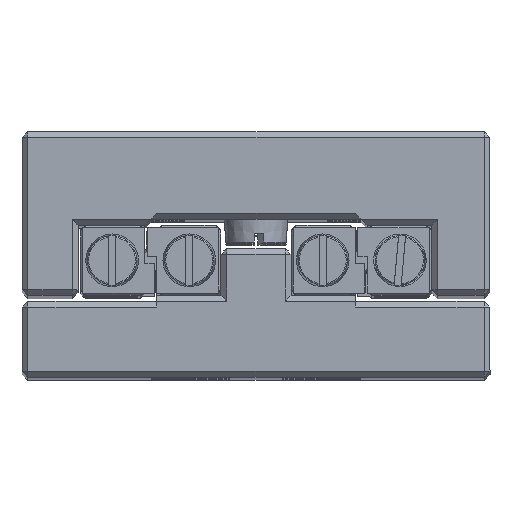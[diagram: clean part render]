
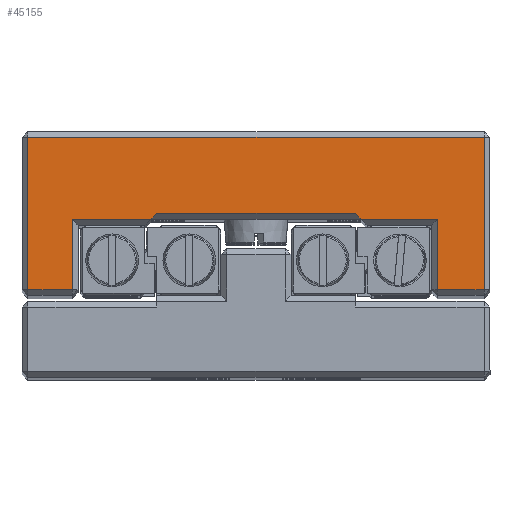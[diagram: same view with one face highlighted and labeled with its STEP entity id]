
A CAD part, top view. The second image highlights one B-rep face of the part: STEP entity #45155.
In plain terms, the highlighted planar face has unit normal (0, 0, 1).
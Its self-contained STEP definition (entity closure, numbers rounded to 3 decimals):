
#2844=PLANE('',#49012);
#5126=FACE_OUTER_BOUND('',#7872,.T.);
#7872=EDGE_LOOP('',(#37960,#37961,#37962,#37963,#37964,#37965,#37966,#37967,
#37968,#37969,#37970,#37971));
#11533=LINE('',#74005,#15374);
#11549=LINE('',#74031,#15390);
#11560=LINE('',#74048,#15401);
#11563=LINE('',#74053,#15404);
#11567=LINE('',#74062,#15408);
#11570=LINE('',#74071,#15411);
#11571=LINE('',#74077,#15412);
#11575=LINE('',#74087,#15416);
#11585=LINE('',#74111,#15426);
#11587=LINE('',#74115,#15428);
#11588=LINE('',#74116,#15429);
#11589=LINE('',#74117,#15430);
#15374=VECTOR('',#58974,10.);
#15390=VECTOR('',#59000,10.);
#15401=VECTOR('',#59019,10.);
#15404=VECTOR('',#59024,10.);
#15408=VECTOR('',#59036,10.);
#15411=VECTOR('',#59049,10.);
#15412=VECTOR('',#59058,10.);
#15416=VECTOR('',#59068,10.);
#15426=VECTOR('',#59088,10.);
#15428=VECTOR('',#59092,10.);
#15429=VECTOR('',#59093,10.);
#15430=VECTOR('',#59094,10.);
#21097=VERTEX_POINT('',#74002);
#21098=VERTEX_POINT('',#74004);
#21103=VERTEX_POINT('',#74029);
#21105=VERTEX_POINT('',#74046);
#21106=VERTEX_POINT('',#74051);
#21107=VERTEX_POINT('',#74060);
#21108=VERTEX_POINT('',#74069);
#21109=VERTEX_POINT('',#74076);
#21111=VERTEX_POINT('',#74084);
#21112=VERTEX_POINT('',#74086);
#21121=VERTEX_POINT('',#74109);
#21122=VERTEX_POINT('',#74114);
#26899=EDGE_CURVE('',#21097,#21098,#11533,.T.);
#26915=EDGE_CURVE('',#21103,#21097,#11549,.T.);
#26926=EDGE_CURVE('',#21105,#21103,#11560,.T.);
#26929=EDGE_CURVE('',#21106,#21105,#11563,.T.);
#26933=EDGE_CURVE('',#21107,#21106,#11567,.T.);
#26936=EDGE_CURVE('',#21108,#21107,#11570,.T.);
#26937=EDGE_CURVE('',#21109,#21108,#11571,.T.);
#26941=EDGE_CURVE('',#21111,#21112,#11575,.T.);
#26953=EDGE_CURVE('',#21121,#21109,#11585,.T.);
#26955=EDGE_CURVE('',#21098,#21122,#11587,.T.);
#26956=EDGE_CURVE('',#21112,#21121,#11588,.T.);
#26957=EDGE_CURVE('',#21122,#21111,#11589,.T.);
#37960=ORIENTED_EDGE('',*,*,#26955,.F.);
#37961=ORIENTED_EDGE('',*,*,#26899,.F.);
#37962=ORIENTED_EDGE('',*,*,#26915,.F.);
#37963=ORIENTED_EDGE('',*,*,#26926,.F.);
#37964=ORIENTED_EDGE('',*,*,#26929,.F.);
#37965=ORIENTED_EDGE('',*,*,#26933,.F.);
#37966=ORIENTED_EDGE('',*,*,#26936,.F.);
#37967=ORIENTED_EDGE('',*,*,#26937,.F.);
#37968=ORIENTED_EDGE('',*,*,#26953,.F.);
#37969=ORIENTED_EDGE('',*,*,#26956,.F.);
#37970=ORIENTED_EDGE('',*,*,#26941,.F.);
#37971=ORIENTED_EDGE('',*,*,#26957,.F.);
#45155=ADVANCED_FACE('',(#5126),#2844,.F.);
#49012=AXIS2_PLACEMENT_3D('',#74113,#59090,#59091);
#58974=DIRECTION('',(0.,1.,0.));
#59000=DIRECTION('',(-1.,0.,0.));
#59019=DIRECTION('',(0.,-1.,0.));
#59024=DIRECTION('',(1.,0.,0.));
#59036=DIRECTION('',(0.,1.,0.));
#59049=DIRECTION('',(-1.,0.,0.));
#59058=DIRECTION('',(0.,-1.,0.));
#59068=DIRECTION('',(-1.,0.,0.));
#59088=DIRECTION('',(-1.,0.,0.));
#59090=DIRECTION('center_axis',(0.,0.,
-1.));
#59091=DIRECTION('ref_axis',(-1.,0.,0.));
#59092=DIRECTION('',(-1.,0.,0.));
#59093=DIRECTION('',(-0.707,-0.707,0.));
#59094=DIRECTION('',(-0.707,0.707,0.));
#74002=CARTESIAN_POINT('',(-18.197,7.5,35.));
#74004=CARTESIAN_POINT('',(-18.197,13.5,35.));
#74005=CARTESIAN_POINT('',(-18.197,10.5,35.));
#74029=CARTESIAN_POINT('',(-14.197,7.5,35.));
#74031=CARTESIAN_POINT('',(-23.697,7.5,35.));
#74046=CARTESIAN_POINT('',(-14.197,20.5,35.));
#74048=CARTESIAN_POINT('',(-14.197,17.5,35.));
#74051=CARTESIAN_POINT('',(-53.197,20.5,35.));
#74053=CARTESIAN_POINT('',(-43.697,20.5,35.));
#74060=CARTESIAN_POINT('',(-53.197,7.5,35.));
#74062=CARTESIAN_POINT('',(-53.197,10.5,35.));
#74069=CARTESIAN_POINT('',(-49.397,7.5,35.));
#74071=CARTESIAN_POINT('',(-41.297,7.5,35.));
#74076=CARTESIAN_POINT('',(-49.397,13.5,35.));
#74077=CARTESIAN_POINT('',(-49.397,13.5,35.));
#74084=CARTESIAN_POINT('',(-25.197,14.,35.));
#74086=CARTESIAN_POINT('',(-42.197,14.,35.));
#74087=CARTESIAN_POINT('',(-29.197,14.,35.));
#74109=CARTESIAN_POINT('',(-42.697,13.5,35.));
#74111=CARTESIAN_POINT('',(-38.447,13.5,35.));
#74113=CARTESIAN_POINT('Origin',(-33.697,14.,35.));
#74114=CARTESIAN_POINT('',(-24.697,13.5,35.));
#74115=CARTESIAN_POINT('',(-26.197,13.5,35.));
#74116=CARTESIAN_POINT('',(-42.697,13.5,35.));
#74117=CARTESIAN_POINT('',(-24.197,13.,35.));
